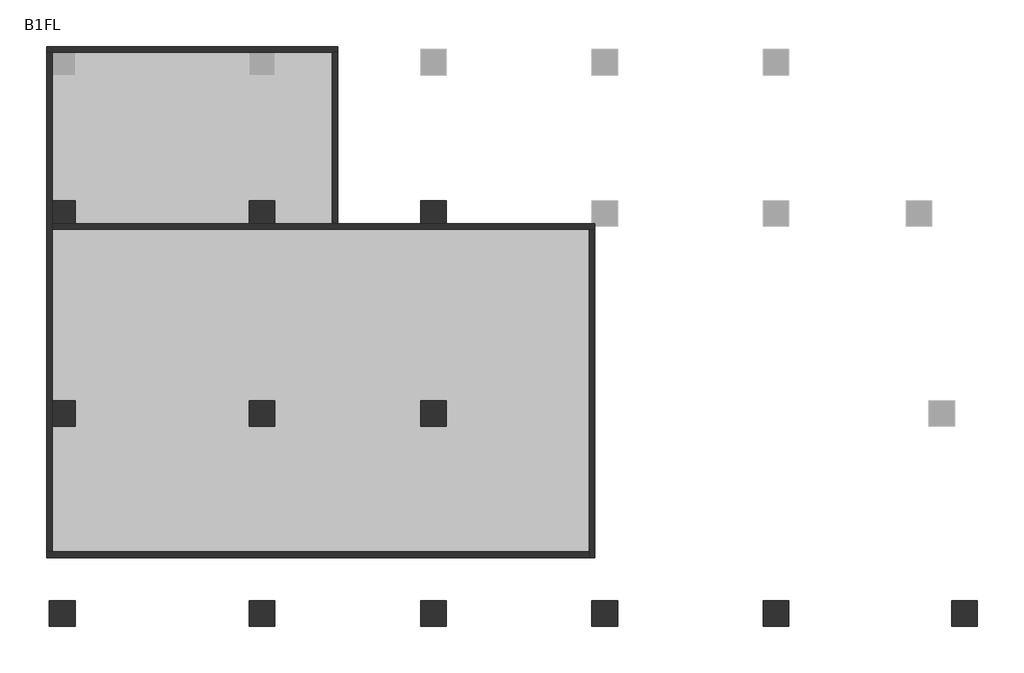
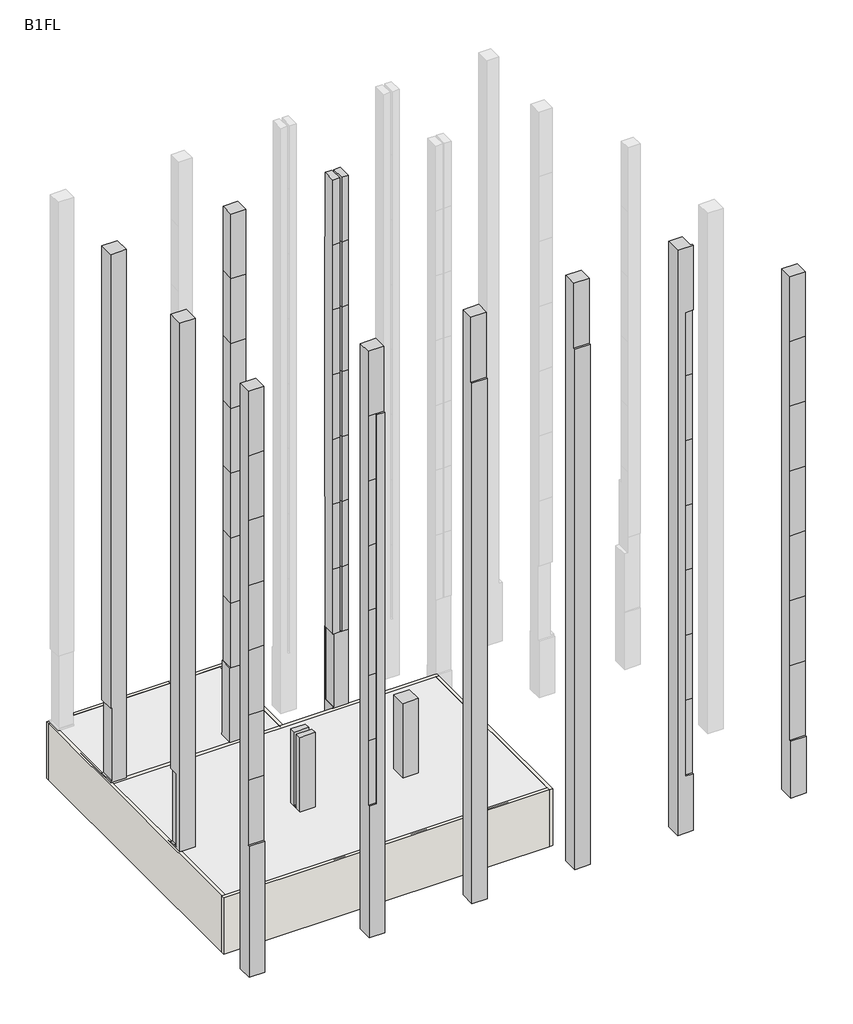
# One storey, part 1 of 2: 12 columns, 6 walls.
"""IFC4 building model written with IfcOpenShell, lengths in millimetres."""

from ifc_helpers import new_model, si_unit, frame, origin, place, context, project, spatial, polyline, outline, extrude, faceted_brep, element, save

model = new_model("IFC4")

# Units and contexts
model_context = context("Model", 3, world=origin())
ifc_project = project(units=[si_unit("LENGTHUNIT", "METRE", prefix="MILLI")], contexts=[model_context])

# Site, building, storey
site = spatial("IfcSite", under=ifc_project)
building = spatial("IfcBuilding", under=site)
storey = spatial("IfcBuildingStorey", under=building, Name="B1FL", Elevation=-3500.0)

# Columns
placement = place(None, origin())
element("IfcColumn", 1, ObjectType="r 矩形柱 : 900x900", at=placement, inside=storey, context=model_context, shape_type="Brep", body=[
    faceted_brep([(-27945.9784025, 10449.6868987, 32600.0), (-27945.9784025, 11349.6868987, 32600.0), (-28845.9784025, 11349.6868987, 32600.0), (-28845.9784025, 10449.6868987, 32600.0), (-28745.9784025, 11349.6868987, -3500.0), (-27945.9784025, 11349.6868987, -3500.0), (-27945.9784025, 10549.6868987, -3500.0), (-28745.9784025, 10549.6868987, -3500.0), (-27945.9784025, 10449.6868987, 0.0), (-27945.9784025, 10549.6868987, 0.0), (-27945.9784025, 11349.6868987, 100.0), (-27945.9784025, 11299.6868987, 100.0), (-27945.9784025, 11299.6868987, 4600.0), (-27945.9784025, 11349.6868987, 4600.0), (-28745.9784025, 11349.6868987, 4600.0), (-28845.9784025, 11349.6868987, 4600.0), (-28845.9784025, 10449.6868987, 4600.0), (-28745.9784025, 10449.6868987, 4600.0), (-28745.9784025, 10449.6868987, 100.0), (-28845.9784025, 10449.6868987, 100.0), (-28845.9784025, 10449.6868987, 0.0), (-28745.9784025, 10449.6868987, 0.0), (-28745.9784025, 11299.6868987, 4600.0), (-28745.9784025, 11299.6868987, 100.0), (-28745.9784025, 11349.6868987, 100.0), (-28845.9784025, 11349.6868987, 100.0), (-28845.9784025, 11349.6868987, 0.0), (-28845.9784025, 10549.6868987, 0.0), (-28745.9784025, 11349.6868987, 0.0), (-28745.9784025, 10549.6868987, 0.0)], [[[0, 1, 2, 3]], [[4, 5, 6, 7]], [[1, 0, 8, 9, 6, 5, 10, 11, 12, 13]], [[2, 1, 13, 14, 15]], [[3, 2, 15, 16]], [[0, 3, 16, 17, 18, 19, 20, 21, 8]], [[18, 17, 22, 23]], [[24, 25, 19, 18, 23]], [[15, 14, 22, 17, 16]], [[19, 25, 26, 27, 20]], [[11, 23, 22, 12]], [[23, 11, 10, 24]], [[12, 22, 14, 13]], [[25, 24, 10, 5, 4, 28, 26]], [[28, 4, 7, 29]], [[21, 20, 27, 26, 28, 29]], [[9, 29, 7, 6]], [[29, 9, 8, 21]]]),
])
element("IfcColumn", 2, ObjectType="r 矩形柱 : 900x900", at=placement, inside=storey, context=model_context, shape_type="Brep", body=[
    faceted_brep([(-27945.9784025, 3449.6868987, 32600.0), (-27945.9784025, 4349.6868987, 32600.0), (-28845.9784025, 4349.6868987, 32600.0), (-28845.9784025, 3449.6868987, 32600.0), (-27945.9784025, 4349.6868987, -3500.0), (-27945.9784025, 3449.6868987, -3500.0), (-28745.9784025, 3449.6868987, -3500.0), (-28745.9784025, 4349.6868987, -3500.0), (-27945.9784025, 3999.6868987, 4600.0), (-27945.9784025, 3999.6868987, 100.0), (-27945.9784025, 3799.6868987, 100.0), (-27945.9784025, 3799.6868987, 4600.0), (-28745.9784025, 4349.6868987, 0.0), (-28845.9784025, 4349.6868987, 0.0), (-28845.9784025, 4349.6868987, 100.0), (-28745.9784025, 4349.6868987, 100.0), (-28745.9784025, 4349.6868987, 4600.0), (-28845.9784025, 4349.6868987, 4600.0), (-28845.9784025, 3999.6868987, 4600.0), (-28845.9784025, 3799.6868987, 4600.0), (-28845.9784025, 3799.6868987, 100.0), (-28845.9784025, 3999.6868987, 100.0), (-28845.9784025, 3449.6868987, 0.0), (-28845.9784025, 3449.6868987, 400.0), (-28745.9784025, 3449.6868987, 0.0), (-28745.9784025, 3999.6868987, 4600.0), (-28745.9784025, 3999.6868987, 100.0)], [[[0, 1, 2, 3]], [[4, 5, 6, 7]], [[1, 0, 5, 4], [8, 9, 10, 11]], [[2, 1, 4, 7, 12, 13, 14, 15, 16, 17]], [[3, 2, 17, 18, 19, 20, 21, 14, 13, 22, 23]], [[0, 3, 23, 22, 24, 6, 5]], [[9, 8, 25, 26]], [[11, 10, 20, 19]], [[10, 9, 26, 21, 20]], [[8, 11, 19, 18, 25]], [[25, 16, 15, 26]], [[26, 15, 14, 21]], [[16, 25, 18, 17]], [[24, 12, 7, 6]], [[12, 24, 22, 13]]]),
])
element("IfcColumn", 3, ObjectType="r 矩形柱 : 900x900", at=placement, inside=storey, context=model_context, shape_type="Brep", body=[
    faceted_brep([(-27945.9784025, -2650.3131013, 32600.0), (-28845.9784025, -2650.3131013, 32600.0), (-28845.9784025, -3450.3131013, 32600.0), (-27945.9784025, -3450.3131013, 32600.0), (-27945.9784025, -3550.3131013, -3500.0), (-28845.9784025, -3550.3131013, -3500.0), (-28845.9784025, -2650.3131013, -3500.0), (-27945.9784025, -2650.3131013, -3500.0), (-27945.9784025, -3450.3131013, 28600.0), (-27945.9784025, -3450.3131013, 24600.0), (-27945.9784025, -3450.3131013, 20600.0), (-27945.9784025, -3450.3131013, 16600.0), (-27945.9784025, -3450.3131013, 12600.0), (-27945.9784025, -3450.3131013, 8600.0), (-27945.9784025, -3450.3131013, 4600.0), (-27945.9784025, -3550.3131013, 4600.0), (-28845.9784025, -2650.3131013, 0.0), (-28845.9784025, -2650.3131013, 400.0), (-28845.9784025, -3550.3131013, 4600.0), (-28845.9784025, -3450.3131013, 4600.0), (-28845.9784025, -3450.3131013, 8600.0), (-28845.9784025, -3450.3131013, 12600.0), (-28845.9784025, -3450.3131013, 16600.0), (-28845.9784025, -3450.3131013, 20600.0), (-28845.9784025, -3450.3131013, 24600.0), (-28845.9784025, -3450.3131013, 28600.0)], [[[0, 1, 2, 3]], [[4, 5, 6, 7]], [[4, 7, 0, 3, 8, 9, 10, 11, 12, 13, 14, 15]], [[1, 0, 7, 6, 16, 17]], [[6, 5, 18, 19, 20, 21, 22, 23, 24, 25, 2, 1, 17, 16]], [[13, 12, 21, 20]], [[12, 11, 22, 21]], [[11, 10, 23, 22]], [[10, 9, 24, 23]], [[9, 8, 25, 24]], [[5, 4, 15, 18]], [[19, 14, 13, 20]], [[14, 19, 18, 15]], [[3, 2, 25, 8]]]),
])
element("IfcColumn", 4, ObjectType="r 矩形柱 : 900x900", at=placement, inside=storey, context=model_context, shape_type="Brep", body=[
    faceted_brep([(-21795.9784025, 11299.6868987, 32600.0), (-21795.9784025, 10499.6868987, 32600.0), (-20945.9784025, 10499.6868987, 32600.0), (-20945.9784025, 11299.6868987, 32600.0), (-21845.9784025, 11349.6868987, -3500.0), (-20945.9784025, 11349.6868987, -3500.0), (-20945.9784025, 10549.6868987, -3500.0), (-21845.9784025, 10549.6868987, -3500.0), (-20945.9784025, 10499.6868987, 12600.0), (-20945.9784025, 10499.6868987, 8600.0), (-20945.9784025, 10499.6868987, 4600.0), (-20945.9784025, 10524.6868987, 4600.0), (-20945.9784025, 11299.6868987, 4600.0), (-20945.9784025, 11299.6868987, 8600.0), (-20945.9784025, 11299.6868987, 12600.0), (-20945.9784025, 11299.6868987, 16600.0), (-20945.9784025, 11299.6868987, 20600.0), (-20945.9784025, 11299.6868987, 24600.0), (-20945.9784025, 11299.6868987, 28600.0), (-20945.9784025, 10499.6868987, 28600.0), (-20945.9784025, 10499.6868987, 24600.0), (-20945.9784025, 10499.6868987, 20600.0), (-20945.9784025, 10499.6868987, 16600.0), (-21795.9784025, 10499.6868987, 12600.0), (-21795.9784025, 10499.6868987, 8600.0), (-21795.9784025, 11299.6868987, 12600.0), (-21795.9784025, 11299.6868987, 8600.0), (-21845.9784025, 11349.6868987, 100.0), (-21845.9784025, 10549.6868987, 0.0), (-21845.9784025, 10524.6868987, 0.0), (-21845.9784025, 10524.6868987, 4600.0), (-21845.9784025, 11299.6868987, 4600.0), (-21845.9784025, 11299.6868987, 100.0), (-20945.9784025, 11349.6868987, 100.0), (-21795.9784025, 10499.6868987, 4600.0), (-21795.9784025, 11299.6868987, 4600.0), (-21795.9784025, 10524.6868987, 4600.0), (-20995.9784025, 11299.6868987, 4600.0), (-21795.9784025, 10499.6868987, 16600.0), (-21795.9784025, 11299.6868987, 16600.0), (-21795.9784025, 10499.6868987, 20600.0), (-21795.9784025, 11299.6868987, 20600.0), (-21795.9784025, 10499.6868987, 24600.0), (-21795.9784025, 11299.6868987, 24600.0), (-21795.9784025, 10499.6868987, 28600.0), (-21795.9784025, 11299.6868987, 28600.0), (-20995.9784025, 11299.6868987, 100.0), (-20945.9784025, 11299.6868987, 100.0), (-20995.9784025, 10524.6868987, 100.0), (-20995.9784025, 10524.6868987, 4600.0), (-20945.9784025, 10524.6868987, 100.0), (-20945.9784025, 10549.6868987, 0.0), (-20945.9784025, 10524.6868987, 0.0)], [[[0, 1, 2, 3]], [[4, 5, 6, 7]], [[8, 9, 10, 11, 12, 13, 14, 15, 16, 17, 18, 3, 2, 19, 20, 21, 22]], [[9, 8, 23, 24]], [[24, 23, 25, 26]], [[27, 4, 7, 28, 29, 30, 31, 32]], [[14, 13, 26, 25]], [[5, 4, 27, 33]], [[10, 9, 24, 34]], [[24, 26, 35, 36, 34]], [[35, 31, 30, 36]], [[13, 12, 37, 35, 26]], [[8, 22, 38, 23]], [[25, 23, 38, 39]], [[15, 14, 25, 39]], [[22, 21, 40, 38]], [[39, 38, 40, 41]], [[16, 15, 39, 41]], [[21, 20, 42, 40]], [[41, 40, 42, 43]], [[17, 16, 41, 43]], [[20, 19, 44, 42]], [[43, 42, 44, 45]], [[18, 17, 43, 45]], [[45, 44, 1, 0]], [[0, 3, 18, 45]], [[2, 1, 44, 19]], [[32, 31, 35, 37, 46]], [[47, 33, 27, 32, 46]], [[48, 46, 37, 49]], [[46, 48, 50, 47]], [[49, 37, 12, 11]], [[7, 6, 51, 28]], [[28, 51, 52, 29]], [[49, 36, 30, 29, 52, 50, 48]], [[36, 49, 11, 10, 34]], [[5, 33, 47, 50, 52, 51, 6]]]),
])
element("IfcColumn", 5, ObjectType="r 矩形柱 : 900x900", at=placement, inside=storey, context=model_context, shape_type="Brep", body=[
    faceted_brep([(-21845.9784025, 3449.6868987, 4600.0), (-20945.9784025, 3449.6868987, 4600.0), (-20945.9784025, 3799.6868987, 4600.0), (-21845.9784025, 3799.6868987, 4600.0), (-20945.9784025, 3449.6868987, -3500.0), (-21845.9784025, 3449.6868987, -3500.0), (-21845.9784025, 4349.6868987, -3500.0), (-20945.9784025, 4349.6868987, -3500.0), (-20945.9784025, 4349.6868987, 100.0), (-20945.9784025, 3999.6868987, 100.0), (-20945.9784025, 3799.6868987, 100.0), (-21845.9784025, 4349.6868987, 4600.0), (-21020.9784025, 4349.6868987, 4600.0), (-21020.9784025, 4349.6868987, 100.0), (-21845.9784025, 3799.6868987, 100.0), (-21845.9784025, 3999.6868987, 100.0), (-21845.9784025, 3999.6868987, 4600.0), (-21020.9784025, 3999.6868987, 100.0), (-21020.9784025, 3999.6868987, 4600.0)], [[[0, 1, 2, 3]], [[4, 5, 6, 7]], [[4, 7, 8, 9, 10, 2, 1]], [[7, 6, 11, 12, 13, 8]], [[6, 5, 0, 3, 14, 15, 16, 11]], [[1, 0, 5, 4]], [[16, 15, 17, 18]], [[3, 2, 10, 14]], [[10, 9, 17, 15, 14]], [[11, 16, 18, 12]], [[17, 13, 12, 18]], [[13, 17, 9, 8]]]),
])
element("IfcColumn", 6, ObjectType="r 矩形柱 : 900x900", at=placement, inside=storey, context=model_context, shape_type="Brep", body=[
    faceted_brep([(-20945.9784025, -2650.3131013, 32600.0), (-21845.9784025, -2650.3131013, 32600.0), (-21845.9784025, -3450.3131013, 32600.0), (-20945.9784025, -3450.3131013, 32600.0), (-20945.9784025, -3550.3131013, -3500.0), (-21845.9784025, -3550.3131013, -3500.0), (-21845.9784025, -2650.3131013, -3500.0), (-20945.9784025, -2650.3131013, -3500.0), (-20945.9784025, -3450.3131013, 28600.0), (-20945.9784025, -3550.3131013, 28600.0), (-21845.9784025, -3550.3131013, 4600.0), (-21845.9784025, -3450.3131013, 4600.0), (-21845.9784025, -3450.3131013, 8600.0), (-21845.9784025, -3450.3131013, 12600.0), (-21845.9784025, -3450.3131013, 16600.0), (-21845.9784025, -3450.3131013, 20600.0), (-21845.9784025, -3450.3131013, 24600.0), (-21845.9784025, -3450.3131013, 28600.0), (-21395.9784025, -3550.3131013, 28600.0), (-21395.9784025, -3550.3131013, 24600.0), (-21395.9784025, -3550.3131013, 20600.0), (-21395.9784025, -3550.3131013, 16600.0), (-21395.9784025, -3550.3131013, 12600.0), (-21395.9784025, -3550.3131013, 8600.0), (-21395.9784025, -3550.3131013, 4600.0), (-21395.9784025, -3450.3131013, 8600.0), (-21395.9784025, -3450.3131013, 12600.0), (-21395.9784025, -3450.3131013, 16600.0), (-21395.9784025, -3450.3131013, 20600.0), (-21395.9784025, -3450.3131013, 24600.0), (-21395.9784025, -3450.3131013, 28600.0), (-21395.9784025, -3450.3131013, 4600.0)], [[[0, 1, 2, 3]], [[4, 5, 6, 7]], [[4, 7, 0, 3, 8, 9]], [[1, 0, 7, 6]], [[6, 5, 10, 11, 12, 13, 14, 15, 16, 17, 2, 1]], [[5, 4, 9, 18, 19, 20, 21, 22, 23, 24, 10]], [[25, 26, 13, 12]], [[26, 25, 23, 22]], [[26, 27, 14, 13]], [[27, 26, 22, 21]], [[27, 28, 15, 14]], [[28, 27, 21, 20]], [[28, 29, 16, 15]], [[29, 28, 20, 19]], [[29, 30, 17, 16]], [[30, 29, 19, 18]], [[31, 25, 12, 11]], [[31, 11, 10, 24]], [[25, 31, 24, 23]], [[30, 8, 3, 2, 17]], [[8, 30, 18, 9]]]),
])
element("IfcColumn", 7, ObjectType="r 矩形柱 : 900x900", at=placement, inside=storey, context=model_context, shape_type="Brep", body=[
    faceted_brep([(-15445.9784025, 10499.6868987, 32600.0), (-15445.9784025, 11299.6868987, 32600.0), (-15845.9784025, 11299.6868987, 32600.0), (-15845.9784025, 10499.6868987, 32600.0), (-15845.9784025, 11349.6868987, -3500.0), (-14945.9784025, 11349.6868987, -3500.0), (-14945.9784025, 10549.6868987, -3500.0), (-15845.9784025, 10549.6868987, -3500.0), (-14945.9784025, 10499.6868987, 12600.0), (-14945.9784025, 10499.6868987, 8600.0), (-14945.9784025, 10499.6868987, 4600.0), (-14945.9784025, 10524.6868987, 4600.0), (-14945.9784025, 10524.6868987, 0.0), (-14945.9784025, 10549.6868987, 0.0), (-14945.9784025, 11349.6868987, 4600.0), (-14945.9784025, 11299.6868987, 4600.0), (-14945.9784025, 11299.6868987, 8600.0), (-14945.9784025, 11299.6868987, 12600.0), (-14945.9784025, 11299.6868987, 16600.0), (-14945.9784025, 11299.6868987, 20600.0), (-14945.9784025, 11299.6868987, 24600.0), (-14945.9784025, 11299.6868987, 28600.0), (-14945.9784025, 11299.6868987, 32600.0), (-14945.9784025, 10499.6868987, 32600.0), (-14945.9784025, 10499.6868987, 28600.0), (-14945.9784025, 10499.6868987, 24600.0), (-14945.9784025, 10499.6868987, 20600.0), (-14945.9784025, 10499.6868987, 16600.0), (-15445.9784025, 11349.6868987, 16600.0), (-15445.9784025, 11349.6868987, 12600.0), (-15845.9784025, 11349.6868987, 12600.0), (-15845.9784025, 11349.6868987, 28600.0), (-15445.9784025, 11349.6868987, 28600.0), (-15445.9784025, 11349.6868987, 24600.0), (-15445.9784025, 11349.6868987, 20600.0), (-15845.9784025, 10499.6868987, 8600.0), (-15845.9784025, 10499.6868987, 12600.0), (-15845.9784025, 10499.6868987, 16600.0), (-15845.9784025, 10499.6868987, 20600.0), (-15845.9784025, 10499.6868987, 24600.0), (-15845.9784025, 10499.6868987, 28600.0), (-15845.9784025, 11299.6868987, 28600.0), (-15845.9784025, 11299.6868987, 12600.0), (-15845.9784025, 11299.6868987, 8600.0), (-15845.9784025, 11299.6868987, 4600.0), (-15845.9784025, 10524.6868987, 4600.0), (-15845.9784025, 10499.6868987, 4600.0), (-15345.9784025, 10499.6868987, 12600.0), (-15345.9784025, 10499.6868987, 8600.0), (-15345.9784025, 11299.6868987, 12600.0), (-15345.9784025, 11299.6868987, 8600.0), (-15445.9784025, 10499.6868987, 12600.0), (-15445.9784025, 10499.6868987, 8600.0), (-15445.9784025, 11299.6868987, 8600.0), (-15445.9784025, 11299.6868987, 12600.0), (-15345.9784025, 10499.6868987, 4600.0), (-15345.9784025, 11299.6868987, 4600.0), (-15345.9784025, 10524.6868987, 4600.0), (-15445.9784025, 10499.6868987, 4600.0), (-15445.9784025, 10524.6868987, 4600.0), (-15445.9784025, 11299.6868987, 4600.0), (-15795.9784025, 11299.6868987, 4600.0), (-15845.9784025, 11349.6868987, 4600.0), (-15345.9784025, 10499.6868987, 16600.0), (-15345.9784025, 11299.6868987, 16600.0), (-15445.9784025, 10499.6868987, 16600.0), (-15345.9784025, 10499.6868987, 20600.0), (-15345.9784025, 11299.6868987, 20600.0), (-15445.9784025, 10499.6868987, 20600.0), (-15345.9784025, 10499.6868987, 24600.0), (-15345.9784025, 11299.6868987, 24600.0), (-15445.9784025, 10499.6868987, 24600.0), (-15345.9784025, 10499.6868987, 28600.0), (-15345.9784025, 11299.6868987, 28600.0), (-15445.9784025, 11299.6868987, 28600.0), (-15445.9784025, 10499.6868987, 28600.0), (-15345.9784025, 10499.6868987, 32600.0), (-15345.9784025, 11299.6868987, 32600.0), (-15795.9784025, 10524.6868987, 4600.0), (-15795.9784025, 11299.6868987, 4600.0), (-15795.9784025, 11299.6868987, 100.0), (-15795.9784025, 10524.6868987, 100.0), (-15845.9784025, 11299.6868987, 100.0), (-15845.9784025, 10524.6868987, 100.0), (-15845.9784025, 10549.6868987, 0.0), (-15845.9784025, 10524.6868987, 0.0)], [[[0, 1, 2, 3]], [[4, 5, 6, 7]], [[8, 9, 10, 11, 12, 13, 6, 5, 14, 15, 16, 17, 18, 19, 20, 21, 22, 23, 24, 25, 26, 27]], [[28, 29, 30, 31, 32, 33, 34]], [[35, 36, 37, 38, 39, 40, 3, 2, 41, 31, 30, 42, 43, 44, 45, 46]], [[9, 8, 47, 48]], [[48, 47, 49, 50]], [[51, 52, 53, 54]], [[36, 35, 52, 51]], [[42, 54, 53, 43]], [[10, 9, 48, 55]], [[48, 50, 56, 57, 55]], [[53, 52, 58, 59, 60]], [[56, 60, 59, 57]], [[35, 46, 58, 52]], [[44, 43, 53, 60, 61]], [[15, 14, 62, 44, 61, 60, 56]], [[8, 27, 63, 47]], [[49, 47, 63, 64]], [[29, 28, 65, 51, 54]], [[37, 36, 51, 65]], [[18, 17, 49, 64]], [[27, 26, 66, 63]], [[64, 63, 66, 67]], [[28, 34, 68, 65]], [[38, 37, 65, 68]], [[19, 18, 64, 67]], [[26, 25, 69, 66]], [[67, 66, 69, 70]], [[34, 33, 71, 68]], [[39, 38, 68, 71]], [[20, 19, 67, 70]], [[25, 24, 72, 69]], [[70, 69, 72, 73]], [[33, 32, 74, 75, 71]], [[40, 39, 71, 75]], [[21, 20, 70, 73]], [[76, 77, 73, 72]], [[1, 0, 75, 74]], [[74, 41, 2, 1]], [[41, 74, 32, 31]], [[23, 76, 72, 24]], [[77, 76, 23, 22]], [[0, 3, 40, 75]], [[78, 79, 80, 81]], [[81, 80, 82, 83]], [[79, 78, 45, 44]], [[80, 79, 44, 82]], [[13, 84, 7, 6]], [[84, 13, 12, 85]], [[59, 78, 81, 83, 85, 12, 11, 57]], [[78, 59, 58, 46, 45]], [[83, 82, 44, 62, 4, 7, 84, 85]], [[57, 11, 10, 55]], [[77, 22, 21, 73]], [[5, 4, 62, 14]], [[17, 16, 50, 49]], [[54, 42, 30, 29]], [[16, 15, 56, 50]]]),
])
element("IfcColumn", 8, ObjectType="r 矩形柱 : 900x900", at=placement, inside=storey, context=model_context, shape_type="SweptSolid", body=[
    extrude(outline(polyline([(-14945.9784025, 3449.6868987), (-15845.9784025, 3449.6868987), (-15845.9784025, 4349.6868987), (-14945.9784025, 4349.6868987), (-14945.9784025, 3449.6868987)])), frame((0.0, 0.0, -3500.0), z_axis=(0.0, 0.0, 1.0), x_axis=(1.0, 0.0, 0.0)), (0.0, 0.0, 1.0), 8100.0),
])
element("IfcColumn", 9, ObjectType="r 矩形柱 : 900x900", at=placement, inside=storey, context=model_context, shape_type="SweptSolid", body=[
    extrude(outline(polyline([(-2650.3131013, -3500.0), (-3550.3131013, -3500.0), (-3550.3131013, 28600.0), (-3450.3131013, 28600.0), (-3450.3131013, 32600.0), (-2650.3131013, 32600.0), (-2650.3131013, -3500.0)])), frame((-15845.9784025, 0.0, 0.0), z_axis=(1.0, 0.0, 0.0), x_axis=(0.0, 1.0, 0.0)), (0.0, 0.0, 1.0), 900.0),
])
element("IfcColumn", 10, ObjectType="r 矩形柱 : 900x900", at=placement, inside=storey, context=model_context, shape_type="SweptSolid", body=[
    extrude(outline(polyline([(-2650.3131013, -3500.0), (-3550.3131013, -3500.0), (-3550.3131013, 28600.0), (-3450.3131013, 28600.0), (-3450.3131013, 32600.0), (-2650.3131013, 32600.0), (-2650.3131013, -3500.0)])), frame((-9845.9784025, 0.0, 0.0), z_axis=(1.0, 0.0, 0.0), x_axis=(0.0, 1.0, 0.0)), (0.0, 0.0, 1.0), 900.0),
])
element("IfcColumn", 11, ObjectType="r 矩形柱 : 900x900", at=placement, inside=storey, context=model_context, shape_type="Brep", body=[
    faceted_brep([(-3845.9784025, -2650.3131013, 32600.0), (-3845.9784025, -3550.3131013, 32600.0), (-2945.9784025, -3550.3131013, 32600.0), (-2945.9784025, -3450.3131013, 32600.0), (-3045.9784025, -3450.3131013, 32600.0), (-3045.9784025, -2650.3131013, 32600.0), (-2945.9784025, -3550.3131013, -3500.0), (-3845.9784025, -3550.3131013, -3500.0), (-3845.9784025, -2650.3131013, -3500.0), (-2945.9784025, -2650.3131013, -3500.0), (-2945.9784025, -3550.3131013, 28600.0), (-2945.9784025, -3450.3131013, 28600.0), (-3045.9784025, -2650.3131013, 28600.0), (-2945.9784025, -2650.3131013, 28600.0), (-2945.9784025, -3550.3131013, 0.0), (-3395.9784025, -3550.3131013, 0.0), (-3395.9784025, -3550.3131013, 4600.0), (-3395.9784025, -3550.3131013, 8600.0), (-3395.9784025, -3550.3131013, 12600.0), (-3395.9784025, -3550.3131013, 16600.0), (-3395.9784025, -3550.3131013, 20600.0), (-3395.9784025, -3550.3131013, 24600.0), (-3395.9784025, -3550.3131013, 28600.0), (-3395.9784025, -3450.3131013, 12600.0), (-3395.9784025, -3450.3131013, 8600.0), (-2945.9784025, -3450.3131013, 8600.0), (-2945.9784025, -3450.3131013, 12600.0), (-3395.9784025, -3450.3131013, 16600.0), (-2945.9784025, -3450.3131013, 16600.0), (-3395.9784025, -3450.3131013, 20600.0), (-2945.9784025, -3450.3131013, 20600.0), (-3395.9784025, -3450.3131013, 24600.0), (-2945.9784025, -3450.3131013, 24600.0), (-3395.9784025, -3450.3131013, 28600.0), (-3045.9784025, -3450.3131013, 28600.0), (-3045.9784025, -3450.3131013, 28600.0), (-3395.9784025, -3450.3131013, 0.0), (-2945.9784025, -3450.3131013, 0.0), (-2945.9784025, -3450.3131013, 4600.0), (-3395.9784025, -3450.3131013, 4600.0)], [[[0, 1, 2, 3, 4, 5]], [[6, 7, 8, 9]], [[2, 10, 11, 3]], [[9, 8, 0, 5, 12, 13]], [[1, 0, 8, 7]], [[2, 1, 7, 6, 14, 15, 16, 17, 18, 19, 20, 21, 22, 10]], [[23, 24, 25, 26]], [[27, 23, 26, 28]], [[29, 27, 28, 30]], [[31, 29, 30, 32]], [[33, 31, 32, 11, 34]], [[11, 10, 22, 33, 34]], [[5, 4, 35, 12]], [[11, 13, 12, 35]], [[36, 37, 38, 39]], [[37, 36, 15, 14]], [[24, 23, 18, 17]], [[23, 27, 19, 18]], [[27, 29, 20, 19]], [[29, 31, 21, 20]], [[31, 33, 22, 21]], [[24, 39, 38, 25]], [[39, 24, 17, 16]], [[36, 39, 16, 15]], [[35, 4, 3, 11]], [[6, 9, 13, 11, 32, 30, 28, 26, 25, 38, 37, 14]]]),
])
element("IfcColumn", 12, ObjectType="r 矩形柱 : 900x900", at=placement, inside=storey, context=model_context, shape_type="Brep", body=[
    faceted_brep([(3654.0215975, -2650.3131013, 28600.0), (2754.0215975, -2650.3131013, 28600.0), (2754.0215975, -3450.3131013, 28600.0), (3654.0215975, -3450.3131013, 28600.0), (3654.0215975, -3550.3131013, -3500.0), (2754.0215975, -3550.3131013, -3500.0), (2754.0215975, -2650.3131013, -3500.0), (3654.0215975, -2650.3131013, -3500.0), (3654.0215975, -2650.3131013, 0.0), (3654.0215975, -2650.3131013, 400.0), (3654.0215975, -3450.3131013, 24600.0), (3654.0215975, -3450.3131013, 20600.0), (3654.0215975, -3450.3131013, 16600.0), (3654.0215975, -3450.3131013, 12600.0), (3654.0215975, -3450.3131013, 8600.0), (3654.0215975, -3450.3131013, 4600.0), (3654.0215975, -3450.3131013, 0.0), (3654.0215975, -3550.3131013, 0.0), (2754.0215975, -3550.3131013, 0.0), (2754.0215975, -3450.3131013, 0.0), (2754.0215975, -3450.3131013, 4600.0), (2754.0215975, -3450.3131013, 8600.0), (2754.0215975, -3450.3131013, 12600.0), (2754.0215975, -3450.3131013, 16600.0), (2754.0215975, -3450.3131013, 20600.0), (2754.0215975, -3450.3131013, 24600.0)], [[[0, 1, 2, 3]], [[4, 5, 6, 7]], [[4, 7, 8, 9, 0, 3, 10, 11, 12, 13, 14, 15, 16, 17]], [[1, 0, 9, 8, 7, 6]], [[6, 5, 18, 19, 20, 21, 22, 23, 24, 25, 2, 1]], [[14, 13, 22, 21]], [[5, 4, 17, 18]], [[13, 12, 23, 22]], [[12, 11, 24, 23]], [[11, 10, 25, 24]], [[3, 2, 25, 10]], [[15, 14, 21, 20]], [[19, 16, 15, 20]], [[16, 19, 18, 17]]]),
])

# Walls
element("IfcWall", 13, ObjectType="標準200", at=placement, inside=storey, context=model_context, shape_type="Brep", body=[
    faceted_brep([(-28945.9784025, 16549.6868987, -3500.0), (-28745.9784025, 16549.6868987, -3500.0), (-27945.9784025, 16549.6868987, -3500.0), (-21845.9784025, 16549.6868987, -3500.0), (-20945.9784025, 16549.6868987, -3500.0), (-18945.9784025, 16549.6868987, -3500.0), (-18745.9784025, 16549.6868987, -3500.0), (-18745.9784025, 16549.6868987, 0.0), (-18945.9784025, 16549.6868987, 0.0), (-20945.9784025, 16549.6868987, 0.0), (-21845.9784025, 16549.6868987, 0.0), (-27945.9784025, 16549.6868987, 0.0), (-28745.9784025, 16549.6868987, 0.0), (-28945.9784025, 16549.6868987, 0.0), (-28945.9784025, 16749.6868987, -3500.0), (-28945.9784025, 16749.6868987, 0.0), (-18745.9784025, 16749.6868987, 0.0), (-18745.9784025, 16749.6868987, -3500.0)], [[[0, 1, 2, 3, 4, 5, 6, 7, 8, 9, 10, 11, 12, 13]], [[14, 15, 16, 17]], [[6, 5, 4, 3, 2, 1, 0, 14, 17]], [[13, 12, 11, 10, 9, 8, 7, 16, 15]], [[7, 6, 17, 16]], [[0, 13, 15, 14]]]),
])
element("IfcWall", 14, ObjectType="標準200", at=placement, inside=storey, context=model_context, shape_type="SweptSolid", body=[
    extrude(outline(polyline([(-18945.9784025, 10449.6868987), (-18945.9784025, 16549.6868987), (-18745.9784025, 16549.6868987), (-18745.9784025, 10449.6868987), (-18945.9784025, 10449.6868987)])), frame((0.0, 0.0, -3500.0), z_axis=(0.0, 0.0, 1.0), x_axis=(1.0, 0.0, 0.0)), (0.0, 0.0, 1.0), 3500.0),
])
element("IfcWall", 15, ObjectType="標準200", at=placement, inside=storey, context=model_context, shape_type="Brep", body=[
    faceted_brep([(-28845.9784025, 10349.6868987, -3500.0), (-9945.9784025, 10349.6868987, -3500.0), (-9745.9784025, 10349.6868987, -3500.0), (-9745.9784025, 10349.6868987, 0.0), (-9945.9784025, 10349.6868987, 0.0), (-28845.9784025, 10349.6868987, 0.0), (-28845.9784025, 10549.6868987, -3500.0), (-28845.9784025, 10549.6868987, 0.0), (-28745.9784025, 10549.6868987, 0.0), (-27945.9784025, 10549.6868987, 0.0), (-21845.9784025, 10549.6868987, 0.0), (-20945.9784025, 10549.6868987, 0.0), (-15845.9784025, 10549.6868987, 0.0), (-14945.9784025, 10549.6868987, 0.0), (-9845.9784025, 10549.6868987, 0.0), (-9745.9784025, 10549.6868987, 0.0), (-9745.9784025, 10549.6868987, -3500.0), (-9845.9784025, 10549.6868987, -3500.0), (-14945.9784025, 10549.6868987, -3500.0), (-15845.9784025, 10549.6868987, -3500.0), (-20945.9784025, 10549.6868987, -3500.0), (-21845.9784025, 10549.6868987, -3500.0), (-27945.9784025, 10549.6868987, -3500.0), (-28745.9784025, 10549.6868987, -3500.0), (-9745.9784025, 10449.6868987, -3500.0), (-9745.9784025, 10449.6868987, 0.0), (-9745.9784025, 10524.6868987, 0.0), (-28845.9784025, 10449.6868987, 0.0)], [[[0, 1, 2, 3, 4, 5]], [[6, 7, 8, 9, 10, 11, 12, 13, 14, 15, 16, 17, 18, 19, 20, 21, 22, 23]], [[2, 1, 0, 6, 23, 22, 21, 20, 19, 18, 17, 16, 24]], [[5, 4, 3, 25, 26, 15, 14, 13, 12, 11, 10, 9, 8, 7, 27]], [[0, 5, 27, 7, 6]], [[3, 2, 24, 16, 15, 26, 25]]]),
])
element("IfcWall", 16, ObjectType="標準200", at=placement, inside=storey, context=model_context, shape_type="Brep", body=[
    faceted_brep([(-9945.9784025, 10349.6868987, -3500.0), (-9945.9784025, -950.3131013, -3500.0), (-9945.9784025, -1150.3131013, -3500.0), (-9945.9784025, -1150.3131013, 0.0), (-9945.9784025, -950.3131013, 0.0), (-9945.9784025, 10349.6868987, 0.0), (-9745.9784025, 10349.6868987, -3500.0), (-9745.9784025, 10349.6868987, 0.0), (-9745.9784025, -1150.3131013, 0.0), (-9745.9784025, -1150.3131013, -3500.0)], [[[0, 1, 2, 3, 4, 5]], [[6, 7, 8, 9]], [[2, 1, 0, 6, 9]], [[5, 4, 3, 8, 7]], [[0, 5, 7, 6]], [[3, 2, 9, 8]]]),
])
element("IfcWall", 17, ObjectType="標準200", at=placement, inside=storey, context=model_context, shape_type="Brep", body=[
    faceted_brep([(-9945.9784025, -950.3131013, -3500.0), (-28745.9784025, -950.3131013, -3500.0), (-28945.9784025, -950.3131013, -3500.0), (-28945.9784025, -950.3131013, 0.0), (-28745.9784025, -950.3131013, 0.0), (-9945.9784025, -950.3131013, 0.0), (-9945.9784025, -1150.3131013, -3500.0), (-9945.9784025, -1150.3131013, 0.0), (-28945.9784025, -1150.3131013, 0.0), (-28945.9784025, -1150.3131013, -3500.0)], [[[0, 1, 2, 3, 4, 5]], [[6, 7, 8, 9]], [[2, 1, 0, 6, 9]], [[5, 4, 3, 8, 7]], [[0, 5, 7, 6]], [[3, 2, 9, 8]]]),
])
element("IfcWall", 18, ObjectType="標準200", at=placement, inside=storey, context=model_context, shape_type="Brep", body=[
    faceted_brep([(-28745.9784025, -950.3131013, -3500.0), (-28745.9784025, 3449.6868987, -3500.0), (-28745.9784025, 4349.6868987, -3500.0), (-28745.9784025, 10549.6868987, -3500.0), (-28745.9784025, 11349.6868987, -3500.0), (-28745.9784025, 15749.6868987, -3500.0), (-28745.9784025, 16549.6868987, -3500.0), (-28745.9784025, 16549.6868987, 0.0), (-28745.9784025, 15749.6868987, 0.0), (-28745.9784025, 11349.6868987, 0.0), (-28745.9784025, 10549.6868987, 0.0), (-28745.9784025, 4349.6868987, 0.0), (-28745.9784025, 3449.6868987, 0.0), (-28745.9784025, -950.3131013, 0.0), (-28945.9784025, -950.3131013, -3500.0), (-28945.9784025, -950.3131013, 0.0), (-28945.9784025, 16549.6868987, 0.0), (-28945.9784025, 16549.6868987, -3500.0)], [[[0, 1, 2, 3, 4, 5, 6, 7, 8, 9, 10, 11, 12, 13]], [[14, 15, 16, 17]], [[6, 5, 4, 3, 2, 1, 0, 14, 17]], [[13, 12, 11, 10, 9, 8, 7, 16, 15]], [[7, 6, 17, 16]], [[0, 13, 15, 14]]]),
])

save(model, "model.ifc")
